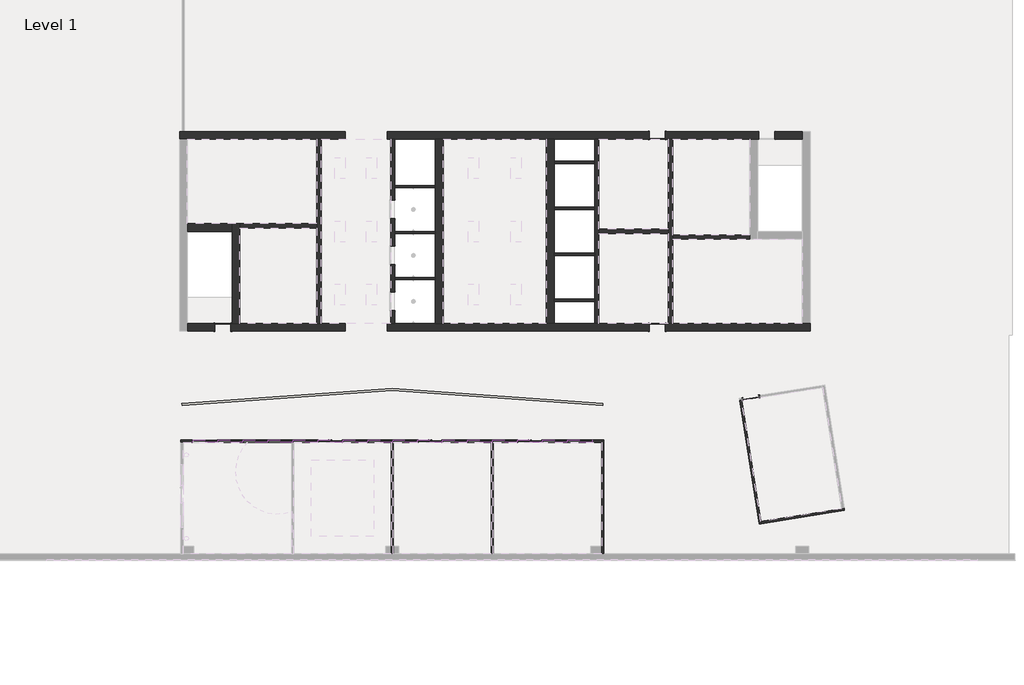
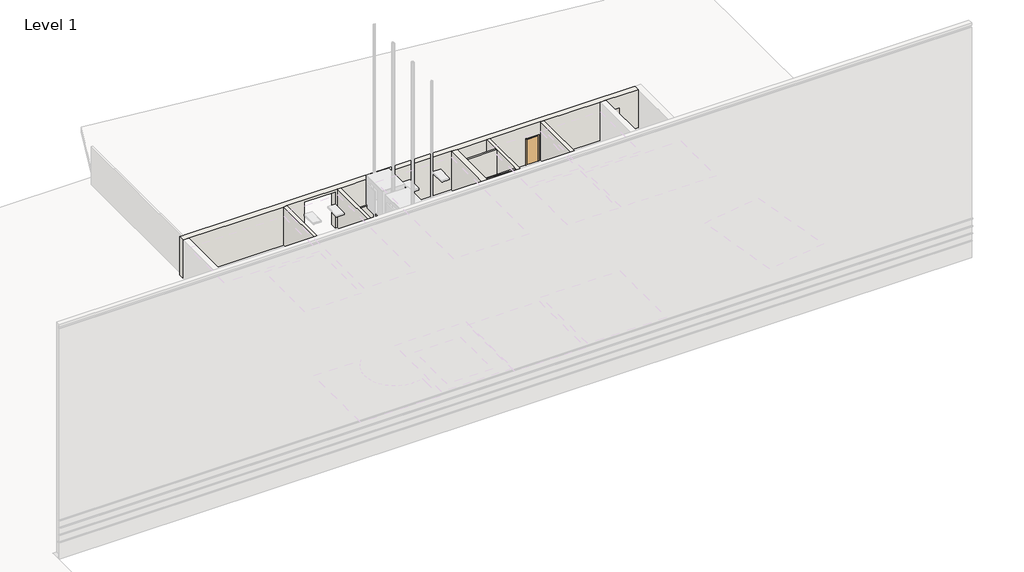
# One storey, part 7 of 23: 44 members, 27 walls, 13 plates, 7 doors.
"""IFC4 building model written with IfcOpenShell, lengths in millimetres."""

from ifc_helpers import new_model, si_unit, point, frame, frame_2d, origin, origin_with_axes, place, context, project, spatial, polyline, circle_curve, trimmed, segment, composite_curve, outline, extrude, faceted_brep, transform, mapped, element, save
from components import curtain_wall_dbl_glass_curtain_wall_dbl_glass_523d1701, door_a1797ceb, door_3c99239a, door_aec9db07, member_5adcf121, member_e7ed5742, member_19b6149e, member_c3403f11, system_panel_glazed_9bc9b24f, system_panel_glazed_76e4750d

model = new_model("IFC4")

# Units and contexts
model_context = context("Model", 3, world=origin())
ifc_project = project(units=[si_unit("LENGTHUNIT", "METRE", prefix="MILLI")], contexts=[model_context])

# Site, building, storey
site = spatial("IfcSite", under=ifc_project)
building = spatial("IfcBuilding", under=site)
storey = spatial("IfcBuildingStorey", under=building, Name="Level 1", Elevation=0.0)

# Doors
placement = place(None, origin())
curtain_wall_dbl_glass_curtain_wall_dbl_glass_shape = curtain_wall_dbl_glass_curtain_wall_dbl_glass_523d1701(model_context)
element("IfcDoor", 1, ObjectType="Curtain Wall Dbl Glass : Curtain Wall Dbl Glass", at=placement, inside=storey, context=model_context, shape_type="MappedRepresentation", body=[
    mapped(curtain_wall_dbl_glass_curtain_wall_dbl_glass_shape, transform((-24482.1740426, -21198.8103492, -25.4), x_axis=(-1.0, 0.0, 0.0), y_axis=(0.0, -1.0, 0.0), z_axis=(0.0, 0.0, 1.0))),
])
element("IfcDoor", 2, ObjectType="Curtain Wall Dbl Glass : Curtain Wall Dbl Glass", at=placement, inside=storey, context=model_context, shape_type="MappedRepresentation", body=[
    mapped(curtain_wall_dbl_glass_curtain_wall_dbl_glass_shape, transform((-18697.3240426, -21198.8103492, -25.4), x_axis=(-1.0, 0.0, 0.0), y_axis=(0.0, -1.0, 0.0), z_axis=(0.0, 0.0, 1.0))),
])
element("IfcDoor", 3, ObjectType="Curtain Wall Dbl Glass : Curtain Wall Dbl Glass", at=placement, inside=storey, context=model_context, shape_type="MappedRepresentation", body=[
    mapped(curtain_wall_dbl_glass_curtain_wall_dbl_glass_shape, transform((-12912.4740426, -21198.8103492, -25.4), x_axis=(-1.0, 0.0, 0.0), y_axis=(0.0, -1.0, 0.0), z_axis=(0.0, 0.0, 1.0))),
])
door_shape = door_a1797ceb(model_context)
element("IfcDoor", 4, ObjectType="Single-Flush : 36\" x 84\"", at=placement, inside=storey, context=model_context, shape_type="MappedRepresentation", body=[
    mapped(door_shape, transform((-99.7033757, -18682.6442583, 0.0), x_axis=(-0.9876883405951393, -0.15643446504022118, 0.0), y_axis=(0.15643446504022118, -0.9876883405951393, 0.0), z_axis=(0.0, 0.0, 1.0))),
])
door_2_shape = door_3c99239a(model_context)
element("IfcDoor", 5, ObjectType="Single-Flush : 36\" x 84\"", at=placement, inside=storey, context=model_context, shape_type="MappedRepresentation", body=[
    mapped(door_2_shape, transform((-30700.0713641, -14594.8103492, 0.0), x_axis=(1.0, 0.0, 0.0), y_axis=(0.0, 1.0, 0.0), z_axis=(0.0, 0.0, 1.0))),
])
element("IfcDoor", 6, ObjectType="Single-Flush : 36\" x 84\"", at=placement, inside=storey, context=model_context, shape_type="MappedRepresentation", body=[
    mapped(door_2_shape, transform((-5525.0427926, -14594.8103492, 0.0), x_axis=(1.0, 0.0, 0.0), y_axis=(0.0, 1.0, 0.0), z_axis=(0.0, 0.0, 1.0))),
])
door_3_shape = door_aec9db07(model_context)
element("IfcDoor", 7, ObjectType="Single-Flush : 36\" x 84\"", at=placement, inside=storey, context=model_context, shape_type="MappedRepresentation", body=[
    mapped(door_3_shape, transform((-5525.0427926, -3469.6103492, 0.0), x_axis=(1.0, 0.0, 0.0), y_axis=(0.0, 1.0, 0.0), z_axis=(0.0, 0.0, 1.0))),
])

# Members
member_shape = member_5adcf121(model_context)
element("IfcMember", 8, ObjectType="Rectangular Mullion : 2.5\" x 5\" rectangular", at=placement, inside=storey, context=model_context, shape_type="MappedRepresentation", body=[
    mapped(member_shape, transform((-30990.1302926, -21198.8103492, 38.1), x_axis=(1.0, 0.0, 0.0), y_axis=(0.0, -1.0, 0.0), z_axis=(0.0, 0.0, -1.0))),
])
element("IfcMember", 9, ObjectType="Rectangular Mullion : 2.5\" x 5\" rectangular", at=placement, inside=storey, context=model_context, shape_type="MappedRepresentation", body=[
    mapped(member_shape, transform((-29543.9177926, -21198.8103492, 38.1), x_axis=(1.0, 0.0, 0.0), y_axis=(0.0, -1.0, 0.0), z_axis=(0.0, 0.0, -1.0))),
])
element("IfcMember", 10, ObjectType="Rectangular Mullion : 2.5\" x 5\" rectangular", at=placement, inside=storey, context=model_context, shape_type="MappedRepresentation", body=[
    mapped(member_shape, transform((-28097.7052926, -21198.8103492, 38.1), x_axis=(1.0, 0.0, 0.0), y_axis=(0.0, -1.0, 0.0), z_axis=(0.0, 0.0, -1.0))),
])
element("IfcMember", 11, ObjectType="Rectangular Mullion : 2.5\" x 5\" rectangular", at=placement, inside=storey, context=model_context, shape_type="MappedRepresentation", body=[
    mapped(member_shape, transform((-26651.4927926, -21198.8103492, 38.1), x_axis=(1.0, 0.0, 0.0), y_axis=(0.0, -1.0, 0.0), z_axis=(0.0, 0.0, -1.0))),
])
element("IfcMember", 12, ObjectType="Rectangular Mullion : 2.5\" x 5\" rectangular", at=placement, inside=storey, context=model_context, shape_type="MappedRepresentation", body=[
    mapped(member_shape, transform((-25205.2802926, -21198.8103492, 38.1), x_axis=(1.0, 0.0, 0.0), y_axis=(0.0, -1.0, 0.0), z_axis=(0.0, 0.0, -1.0))),
])
element("IfcMember", 13, ObjectType="Rectangular Mullion : 2.5\" x 5\" rectangular", at=placement, inside=storey, context=model_context, shape_type="MappedRepresentation", body=[
    mapped(member_shape, transform((-23759.0677926, -21198.8103492, 38.1), x_axis=(1.0, 0.0, 0.0), y_axis=(0.0, -1.0, 0.0), z_axis=(0.0, 0.0, -1.0))),
])
element("IfcMember", 14, ObjectType="Rectangular Mullion : 2.5\" x 5\" rectangular", at=placement, inside=storey, context=model_context, shape_type="MappedRepresentation", body=[
    mapped(member_shape, transform((-22312.8552926, -21198.8103492, 38.1), x_axis=(1.0, 0.0, 0.0), y_axis=(0.0, -1.0, 0.0), z_axis=(0.0, 0.0, -1.0))),
])
element("IfcMember", 15, ObjectType="Rectangular Mullion : 2.5\" x 5\" rectangular", at=placement, inside=storey, context=model_context, shape_type="MappedRepresentation", body=[
    mapped(member_shape, transform((-20866.6427926, -21198.8103492, 38.1), x_axis=(1.0, 0.0, 0.0), y_axis=(0.0, -1.0, 0.0), z_axis=(0.0, 0.0, -1.0))),
])
element("IfcMember", 16, ObjectType="Rectangular Mullion : 2.5\" x 5\" rectangular", at=placement, inside=storey, context=model_context, shape_type="MappedRepresentation", body=[
    mapped(member_shape, transform((-19420.4302926, -21198.8103492, 38.1), x_axis=(1.0, 0.0, 0.0), y_axis=(0.0, -1.0, 0.0), z_axis=(0.0, 0.0, -1.0))),
])
element("IfcMember", 17, ObjectType="Rectangular Mullion : 2.5\" x 5\" rectangular", at=placement, inside=storey, context=model_context, shape_type="MappedRepresentation", body=[
    mapped(member_shape, transform((-17974.2177926, -21198.8103492, 38.1), x_axis=(1.0, 0.0, 0.0), y_axis=(0.0, -1.0, 0.0), z_axis=(0.0, 0.0, -1.0))),
])
element("IfcMember", 18, ObjectType="Rectangular Mullion : 2.5\" x 5\" rectangular", at=placement, inside=storey, context=model_context, shape_type="MappedRepresentation", body=[
    mapped(member_shape, transform((-16528.0052926, -21198.8103492, 38.1), x_axis=(1.0, 0.0, 0.0), y_axis=(0.0, -1.0, 0.0), z_axis=(0.0, 0.0, -1.0))),
])
element("IfcMember", 19, ObjectType="Rectangular Mullion : 2.5\" x 5\" rectangular", at=placement, inside=storey, context=model_context, shape_type="MappedRepresentation", body=[
    mapped(member_shape, transform((-15081.7927926, -21198.8103492, 38.1), x_axis=(1.0, 0.0, 0.0), y_axis=(0.0, -1.0, 0.0), z_axis=(0.0, 0.0, -1.0))),
])
element("IfcMember", 20, ObjectType="Rectangular Mullion : 2.5\" x 5\" rectangular", at=placement, inside=storey, context=model_context, shape_type="MappedRepresentation", body=[
    mapped(member_shape, transform((-13635.5802926, -21198.8103492, 38.1), x_axis=(1.0, 0.0, 0.0), y_axis=(0.0, -1.0, 0.0), z_axis=(0.0, 0.0, -1.0))),
])
element("IfcMember", 21, ObjectType="Rectangular Mullion : 2.5\" x 5\" rectangular", at=placement, inside=storey, context=model_context, shape_type="MappedRepresentation", body=[
    mapped(member_shape, transform((-12189.3677926, -21198.8103492, 38.1), x_axis=(1.0, 0.0, 0.0), y_axis=(0.0, -1.0, 0.0), z_axis=(0.0, 0.0, -1.0))),
])
element("IfcMember", 22, ObjectType="Rectangular Mullion : 2.5\" x 5\" rectangular", at=placement, inside=storey, context=model_context, shape_type="MappedRepresentation", body=[
    mapped(member_shape, transform((-10743.1552926, -21198.8103492, 38.1), x_axis=(1.0, 0.0, 0.0), y_axis=(0.0, -1.0, 0.0), z_axis=(0.0, 0.0, -1.0))),
])
member_2_shape = member_e7ed5742(model_context)
element("IfcMember", 23, ObjectType="Rectangular Mullion : 2.5\" x 5\" rectangular", at=placement, inside=storey, context=model_context, shape_type="MappedRepresentation", body=[
    mapped(member_2_shape, transform((-9296.9427926, -21198.8103492, 38.1), x_axis=(1.0, 0.0, 0.0), y_axis=(0.0, -1.0, 0.0), z_axis=(0.0, 0.0, -1.0))),
])
member_3_shape = member_19b6149e(model_context)
element("IfcMember", 24, ObjectType="Rectangular Mullion : 2.5\" x 5\" rectangular", at=placement, inside=storey, context=model_context, shape_type="MappedRepresentation", body=[
    mapped(member_3_shape, transform((-9296.9427926, -21198.8103492, 2413.0), x_axis=(0.0, 0.0, 1.0), y_axis=(0.0, -1.0, 0.0), z_axis=(1.0, 0.0, 0.0))),
])
element("IfcMember", 25, ObjectType="Rectangular Mullion : 2.5\" x 5\" rectangular", at=placement, inside=storey, context=model_context, shape_type="MappedRepresentation", body=[
    mapped(member_3_shape, transform((-30990.1302926, -21198.8103492, 2413.0), x_axis=(0.0, 0.0, 1.0), y_axis=(0.0, -1.0, 0.0), z_axis=(1.0, 0.0, 0.0))),
])
element("IfcMember", 26, ObjectType="Rectangular Mullion : 2.5\" x 5\" rectangular", at=placement, inside=storey, context=model_context, shape_type="MappedRepresentation", body=[
    mapped(member_3_shape, transform((-29543.9177926, -21198.8103492, 2413.0), x_axis=(0.0, 0.0, 1.0), y_axis=(0.0, -1.0, 0.0), z_axis=(1.0, 0.0, 0.0))),
])
element("IfcMember", 27, ObjectType="Rectangular Mullion : 2.5\" x 5\" rectangular", at=placement, inside=storey, context=model_context, shape_type="MappedRepresentation", body=[
    mapped(member_3_shape, transform((-28097.7052926, -21198.8103492, 2413.0), x_axis=(0.0, 0.0, 1.0), y_axis=(0.0, -1.0, 0.0), z_axis=(1.0, 0.0, 0.0))),
])
element("IfcMember", 28, ObjectType="Rectangular Mullion : 2.5\" x 5\" rectangular", at=placement, inside=storey, context=model_context, shape_type="MappedRepresentation", body=[
    mapped(member_3_shape, transform((-26651.4927926, -21198.8103492, 2413.0), x_axis=(0.0, 0.0, 1.0), y_axis=(0.0, -1.0, 0.0), z_axis=(1.0, 0.0, 0.0))),
])
element("IfcMember", 29, ObjectType="Rectangular Mullion : 2.5\" x 5\" rectangular", at=placement, inside=storey, context=model_context, shape_type="MappedRepresentation", body=[
    mapped(member_3_shape, transform((-25205.2802926, -21198.8103492, 2413.0), x_axis=(0.0, 0.0, 1.0), y_axis=(0.0, -1.0, 0.0), z_axis=(1.0, 0.0, 0.0))),
])
element("IfcMember", 30, ObjectType="Rectangular Mullion : 2.5\" x 5\" rectangular", at=placement, inside=storey, context=model_context, shape_type="MappedRepresentation", body=[
    mapped(member_3_shape, transform((-23759.0677926, -21198.8103492, 2413.0), x_axis=(0.0, 0.0, 1.0), y_axis=(0.0, -1.0, 0.0), z_axis=(1.0, 0.0, 0.0))),
])
element("IfcMember", 31, ObjectType="Rectangular Mullion : 2.5\" x 5\" rectangular", at=placement, inside=storey, context=model_context, shape_type="MappedRepresentation", body=[
    mapped(member_3_shape, transform((-22312.8552926, -21198.8103492, 2413.0), x_axis=(0.0, 0.0, 1.0), y_axis=(0.0, -1.0, 0.0), z_axis=(1.0, 0.0, 0.0))),
])
element("IfcMember", 32, ObjectType="Rectangular Mullion : 2.5\" x 5\" rectangular", at=placement, inside=storey, context=model_context, shape_type="MappedRepresentation", body=[
    mapped(member_3_shape, transform((-20866.6427926, -21198.8103492, 2413.0), x_axis=(0.0, 0.0, 1.0), y_axis=(0.0, -1.0, 0.0), z_axis=(1.0, 0.0, 0.0))),
])
element("IfcMember", 33, ObjectType="Rectangular Mullion : 2.5\" x 5\" rectangular", at=placement, inside=storey, context=model_context, shape_type="MappedRepresentation", body=[
    mapped(member_3_shape, transform((-19420.4302926, -21198.8103492, 2413.0), x_axis=(0.0, 0.0, 1.0), y_axis=(0.0, -1.0, 0.0), z_axis=(1.0, 0.0, 0.0))),
])
element("IfcMember", 34, ObjectType="Rectangular Mullion : 2.5\" x 5\" rectangular", at=placement, inside=storey, context=model_context, shape_type="MappedRepresentation", body=[
    mapped(member_3_shape, transform((-17974.2177926, -21198.8103492, 2413.0), x_axis=(0.0, 0.0, 1.0), y_axis=(0.0, -1.0, 0.0), z_axis=(1.0, 0.0, 0.0))),
])
element("IfcMember", 35, ObjectType="Rectangular Mullion : 2.5\" x 5\" rectangular", at=placement, inside=storey, context=model_context, shape_type="MappedRepresentation", body=[
    mapped(member_3_shape, transform((-16528.0052926, -21198.8103492, 2413.0), x_axis=(0.0, 0.0, 1.0), y_axis=(0.0, -1.0, 0.0), z_axis=(1.0, 0.0, 0.0))),
])
element("IfcMember", 36, ObjectType="Rectangular Mullion : 2.5\" x 5\" rectangular", at=placement, inside=storey, context=model_context, shape_type="MappedRepresentation", body=[
    mapped(member_3_shape, transform((-15081.7927926, -21198.8103492, 2413.0), x_axis=(0.0, 0.0, 1.0), y_axis=(0.0, -1.0, 0.0), z_axis=(1.0, 0.0, 0.0))),
])
element("IfcMember", 37, ObjectType="Rectangular Mullion : 2.5\" x 5\" rectangular", at=placement, inside=storey, context=model_context, shape_type="MappedRepresentation", body=[
    mapped(member_3_shape, transform((-13635.5802926, -21198.8103492, 2413.0), x_axis=(0.0, 0.0, 1.0), y_axis=(0.0, -1.0, 0.0), z_axis=(1.0, 0.0, 0.0))),
])
element("IfcMember", 38, ObjectType="Rectangular Mullion : 2.5\" x 5\" rectangular", at=placement, inside=storey, context=model_context, shape_type="MappedRepresentation", body=[
    mapped(member_3_shape, transform((-12189.3677926, -21198.8103492, 2413.0), x_axis=(0.0, 0.0, 1.0), y_axis=(0.0, -1.0, 0.0), z_axis=(1.0, 0.0, 0.0))),
])
element("IfcMember", 39, ObjectType="Rectangular Mullion : 2.5\" x 5\" rectangular", at=placement, inside=storey, context=model_context, shape_type="MappedRepresentation", body=[
    mapped(member_3_shape, transform((-10743.1552926, -21198.8103492, 2413.0), x_axis=(0.0, 0.0, 1.0), y_axis=(0.0, -1.0, 0.0), z_axis=(1.0, 0.0, 0.0))),
])
element("IfcMember", 40, ObjectType="Rectangular Mullion : 2.5\" x 5\" rectangular", at=placement, inside=storey, context=model_context, shape_type="MappedRepresentation", body=[
    mapped(member_3_shape, transform((-30990.1302926, -21198.8103492, -25.4), x_axis=(0.0, 0.0, -1.0), y_axis=(0.0, -1.0, 0.0), z_axis=(-1.0, 0.0, 0.0))),
])
element("IfcMember", 41, ObjectType="Rectangular Mullion : 2.5\" x 5\" rectangular", at=placement, inside=storey, context=model_context, shape_type="MappedRepresentation", body=[
    mapped(member_3_shape, transform((-29543.9177926, -21198.8103492, -25.4), x_axis=(0.0, 0.0, -1.0), y_axis=(0.0, -1.0, 0.0), z_axis=(-1.0, 0.0, 0.0))),
])
element("IfcMember", 42, ObjectType="Rectangular Mullion : 2.5\" x 5\" rectangular", at=placement, inside=storey, context=model_context, shape_type="MappedRepresentation", body=[
    mapped(member_3_shape, transform((-28097.7052926, -21198.8103492, -25.4), x_axis=(0.0, 0.0, -1.0), y_axis=(0.0, -1.0, 0.0), z_axis=(-1.0, 0.0, 0.0))),
])
element("IfcMember", 43, ObjectType="Rectangular Mullion : 2.5\" x 5\" rectangular", at=placement, inside=storey, context=model_context, shape_type="MappedRepresentation", body=[
    mapped(member_3_shape, transform((-22312.8552926, -21198.8103492, -25.4), x_axis=(0.0, 0.0, -1.0), y_axis=(0.0, -1.0, 0.0), z_axis=(-1.0, 0.0, 0.0))),
])
element("IfcMember", 44, ObjectType="Rectangular Mullion : 2.5\" x 5\" rectangular", at=placement, inside=storey, context=model_context, shape_type="MappedRepresentation", body=[
    mapped(member_3_shape, transform((-16528.0052926, -21198.8103492, -25.4), x_axis=(0.0, 0.0, -1.0), y_axis=(0.0, -1.0, 0.0), z_axis=(-1.0, 0.0, 0.0))),
])
element("IfcMember", 45, ObjectType="Rectangular Mullion : 2.5\" x 5\" rectangular", at=placement, inside=storey, context=model_context, shape_type="MappedRepresentation", body=[
    mapped(member_3_shape, transform((-10743.1552926, -21198.8103492, -25.4), x_axis=(0.0, 0.0, -1.0), y_axis=(0.0, -1.0, 0.0), z_axis=(-1.0, 0.0, 0.0))),
])
member_4_shape = member_c3403f11(model_context)
element("IfcMember", 46, ObjectType="Rectangular Mullion : 2.5\" x 5\" rectangular", at=placement, inside=storey, context=model_context, shape_type="MappedRepresentation", body=[
    mapped(member_4_shape, transform((-26651.4927926, -21198.8103492, -25.4), x_axis=(0.0, 0.0, -1.0), y_axis=(0.0, -1.0, 0.0), z_axis=(-1.0, 0.0, 0.0))),
])
element("IfcMember", 47, ObjectType="Rectangular Mullion : 2.5\" x 5\" rectangular", at=placement, inside=storey, context=model_context, shape_type="MappedRepresentation", body=[
    mapped(member_4_shape, transform((-20866.6427926, -21198.8103492, -25.4), x_axis=(0.0, 0.0, -1.0), y_axis=(0.0, -1.0, 0.0), z_axis=(-1.0, 0.0, 0.0))),
])
element("IfcMember", 48, ObjectType="Rectangular Mullion : 2.5\" x 5\" rectangular", at=placement, inside=storey, context=model_context, shape_type="MappedRepresentation", body=[
    mapped(member_4_shape, transform((-15081.7927926, -21198.8103492, -25.4), x_axis=(0.0, 0.0, -1.0), y_axis=(0.0, -1.0, 0.0), z_axis=(-1.0, 0.0, 0.0))),
])
element("IfcMember", 49, ObjectType="Rectangular Mullion : 2.5\" x 5\" rectangular", at=placement, inside=storey, context=model_context, shape_type="MappedRepresentation", body=[
    mapped(member_4_shape, transform((-23790.8177926, -21198.8103492, -25.4), x_axis=(0.0, 0.0, -1.0), y_axis=(0.0, -1.0, 0.0), z_axis=(-1.0, 0.0, 0.0))),
])
element("IfcMember", 50, ObjectType="Rectangular Mullion : 2.5\" x 5\" rectangular", at=placement, inside=storey, context=model_context, shape_type="MappedRepresentation", body=[
    mapped(member_4_shape, transform((-18005.9677926, -21198.8103492, -25.4), x_axis=(0.0, 0.0, -1.0), y_axis=(0.0, -1.0, 0.0), z_axis=(-1.0, 0.0, 0.0))),
])
element("IfcMember", 51, ObjectType="Rectangular Mullion : 2.5\" x 5\" rectangular", at=placement, inside=storey, context=model_context, shape_type="MappedRepresentation", body=[
    mapped(member_4_shape, transform((-12221.1177926, -21198.8103492, -25.4), x_axis=(0.0, 0.0, -1.0), y_axis=(0.0, -1.0, 0.0), z_axis=(-1.0, 0.0, 0.0))),
])

# Plates
system_panel_glazed_shape = system_panel_glazed_9bc9b24f(model_context)
element("IfcPlate", 52, ObjectType="System Panel : Glazed", at=placement, inside=storey, context=model_context, shape_type="MappedRepresentation", body=[
    mapped(system_panel_glazed_shape, transform((-31697.3615426, -21198.8103492, 38.1), x_axis=(1.0, 0.0, 0.0), y_axis=(0.0, 1.0, 0.0), z_axis=(0.0, 0.0, 1.0))),
])
element("IfcPlate", 53, ObjectType="System Panel : Glazed", at=placement, inside=storey, context=model_context, shape_type="MappedRepresentation", body=[
    mapped(system_panel_glazed_shape, transform((-10035.9240426, -21198.8103492, 38.1), x_axis=(1.0, 0.0, 0.0), y_axis=(0.0, 1.0, 0.0), z_axis=(0.0, 0.0, 1.0))),
])
system_panel_glazed_2_shape = system_panel_glazed_76e4750d(model_context)
element("IfcPlate", 54, ObjectType="System Panel : Glazed", at=placement, inside=storey, context=model_context, shape_type="MappedRepresentation", body=[
    mapped(system_panel_glazed_2_shape, transform((-30267.0240426, -21198.8103492, 38.1), x_axis=(1.0, 0.0, 0.0), y_axis=(0.0, 1.0, 0.0), z_axis=(0.0, 0.0, 1.0))),
])
element("IfcPlate", 55, ObjectType="System Panel : Glazed", at=placement, inside=storey, context=model_context, shape_type="MappedRepresentation", body=[
    mapped(system_panel_glazed_2_shape, transform((-28820.8115426, -21198.8103492, 38.1), x_axis=(1.0, 0.0, 0.0), y_axis=(0.0, 1.0, 0.0), z_axis=(0.0, 0.0, 1.0))),
])
element("IfcPlate", 56, ObjectType="System Panel : Glazed", at=placement, inside=storey, context=model_context, shape_type="MappedRepresentation", body=[
    mapped(system_panel_glazed_2_shape, transform((-27374.5990426, -21198.8103492, 38.1), x_axis=(1.0, 0.0, 0.0), y_axis=(0.0, 1.0, 0.0), z_axis=(0.0, 0.0, 1.0))),
])
element("IfcPlate", 57, ObjectType="System Panel : Glazed", at=placement, inside=storey, context=model_context, shape_type="MappedRepresentation", body=[
    mapped(system_panel_glazed_2_shape, transform((-25928.3865426, -21198.8103492, 38.1), x_axis=(1.0, 0.0, 0.0), y_axis=(0.0, 1.0, 0.0), z_axis=(0.0, 0.0, 1.0))),
])
element("IfcPlate", 58, ObjectType="System Panel : Glazed", at=placement, inside=storey, context=model_context, shape_type="MappedRepresentation", body=[
    mapped(system_panel_glazed_2_shape, transform((-23035.9615426, -21198.8103492, 38.1), x_axis=(1.0, 0.0, 0.0), y_axis=(0.0, 1.0, 0.0), z_axis=(0.0, 0.0, 1.0))),
])
element("IfcPlate", 59, ObjectType="System Panel : Glazed", at=placement, inside=storey, context=model_context, shape_type="MappedRepresentation", body=[
    mapped(system_panel_glazed_2_shape, transform((-21589.7490426, -21198.8103492, 38.1), x_axis=(1.0, 0.0, 0.0), y_axis=(0.0, 1.0, 0.0), z_axis=(0.0, 0.0, 1.0))),
])
element("IfcPlate", 60, ObjectType="System Panel : Glazed", at=placement, inside=storey, context=model_context, shape_type="MappedRepresentation", body=[
    mapped(system_panel_glazed_2_shape, transform((-20143.5365426, -21198.8103492, 38.1), x_axis=(1.0, 0.0, 0.0), y_axis=(0.0, 1.0, 0.0), z_axis=(0.0, 0.0, 1.0))),
])
element("IfcPlate", 61, ObjectType="System Panel : Glazed", at=placement, inside=storey, context=model_context, shape_type="MappedRepresentation", body=[
    mapped(system_panel_glazed_2_shape, transform((-17251.1115426, -21198.8103492, 38.1), x_axis=(1.0, 0.0, 0.0), y_axis=(0.0, 1.0, 0.0), z_axis=(0.0, 0.0, 1.0))),
])
element("IfcPlate", 62, ObjectType="System Panel : Glazed", at=placement, inside=storey, context=model_context, shape_type="MappedRepresentation", body=[
    mapped(system_panel_glazed_2_shape, transform((-15804.8990426, -21198.8103492, 38.1), x_axis=(1.0, 0.0, 0.0), y_axis=(0.0, 1.0, 0.0), z_axis=(0.0, 0.0, 1.0))),
])
element("IfcPlate", 63, ObjectType="System Panel : Glazed", at=placement, inside=storey, context=model_context, shape_type="MappedRepresentation", body=[
    mapped(system_panel_glazed_2_shape, transform((-14358.6865426, -21198.8103492, 38.1), x_axis=(1.0, 0.0, 0.0), y_axis=(0.0, 1.0, 0.0), z_axis=(0.0, 0.0, 1.0))),
])
element("IfcPlate", 64, ObjectType="System Panel : Glazed", at=placement, inside=storey, context=model_context, shape_type="MappedRepresentation", body=[
    mapped(system_panel_glazed_2_shape, transform((-11466.2615426, -21198.8103492, 38.1), x_axis=(1.0, 0.0, 0.0), y_axis=(0.0, 1.0, 0.0), z_axis=(0.0, 0.0, 1.0))),
])

# Walls
element("IfcWall", 65, ObjectType="Core-shaft 10\" Concrete", at=placement, inside=storey, context=model_context, shape_type="SweptSolid", body=[
    extrude(outline(polyline([(-3698.2103492, 0.0), (-7222.4603492, 0.0), (-7222.4603492, 2159.0), (-8301.9603492, 2159.0), (-8301.9603492, 0.0), (-9889.4603492, 0.0), (-9889.4603492, 2159.0), (-10968.9603492, 2159.0), (-10968.9603492, 0.0), (-12556.4603492, 0.0), (-12556.4603492, 2159.0), (-13635.9603492, 2159.0), (-13635.9603492, 0.0), (-14366.2103492, 0.0), (-14366.2103492, 3222.625), (-3698.2103492, 3222.625), (-3698.2103492, 0.0)])), frame((-20979.1285069, 0.0, 0.0), z_axis=(1.0, 0.0, 0.0), x_axis=(0.0, 1.0, 0.0)), (0.0, 0.0, 1.0), 254.0),
])
element("IfcWall", 66, ObjectType="Core-shaft 10\" Concrete", at=placement, inside=storey, context=model_context, shape_type="Brep", body=[
    faceted_brep([(-24992.3285069, -14366.2103492, 0.0), (-24992.3285069, -3698.2103492, 0.0), (-24992.3285069, -3698.2103492, 3222.625), (-24992.3285069, -14366.2103492, 3222.625), (-25246.3285069, -14366.2103492, 0.0), (-25246.3285069, -14366.2103492, 3222.625), (-25246.3285069, -8829.0103492, 3222.625), (-25246.3285069, -8575.0103492, 3222.625), (-25246.3285069, -3698.2103492, 3222.625), (-25246.3285069, -3698.2103492, 0.0), (-25246.3285069, -8575.0103492, 0.0), (-25246.3285069, -8829.0103492, 0.0)], [[[0, 1, 2, 3]], [[4, 5, 6, 7, 8, 9, 10, 11]], [[1, 0, 4, 11, 10, 9]], [[2, 1, 9, 8]], [[0, 3, 5, 4]], [[3, 2, 8, 7, 6, 5]]]),
])
element("IfcWall", 67, ObjectType="Core-shaft 10\" Concrete", at=placement, inside=storey, context=model_context, shape_type="SweptSolid", body=[
    extrude(outline(polyline([(-25246.3285069, -8829.0103492), (-29709.4713641, -8829.0103492), (-29709.4713641, -8575.0103492), (-25246.3285069, -8575.0103492), (-25246.3285069, -8829.0103492)])), origin_with_axes(), (0.0, 0.0, 1.0), 3222.625),
])
element("IfcWall", 68, ObjectType="Core-shaft 10\" Concrete", at=placement, inside=storey, context=model_context, shape_type="SweptSolid", body=[
    extrude(outline(polyline([(-8903.2427926, -3698.2103492), (-8903.2427926, -14366.2103492), (-9157.2427926, -14366.2103492), (-9157.2427926, -3698.2103492), (-8903.2427926, -3698.2103492)])), origin_with_axes(), (0.0, 0.0, 1.0), 3222.625),
])
element("IfcWall", 69, ObjectType="Core-shaft 10\" Concrete", at=placement, inside=storey, context=model_context, shape_type="Brep", body=[
    faceted_brep([(-4636.0427926, -14366.2103492, 0.0), (-4636.0427926, -9489.4103492, 0.0), (-4636.0427926, -9235.4103492, 0.0), (-4636.0427926, -3698.2103492, 0.0), (-4636.0427926, -3698.2103492, 3222.625), (-4636.0427926, -9235.4103492, 3222.625), (-4636.0427926, -9489.4103492, 3222.625), (-4636.0427926, -14366.2103492, 3222.625), (-4890.0427926, -14366.2103492, 0.0), (-4890.0427926, -14366.2103492, 3222.625), (-4890.0427926, -3698.2103492, 3222.625), (-4890.0427926, -3698.2103492, 0.0)], [[[0, 1, 2, 3, 4, 5, 6, 7]], [[8, 9, 10, 11]], [[3, 2, 1, 0, 8, 11]], [[4, 3, 11, 10]], [[0, 7, 9, 8]], [[7, 6, 5, 4, 10, 9]]]),
])
element("IfcWall", 70, ObjectType="Core-shaft 10\" Concrete", at=placement, inside=storey, context=model_context, shape_type="SweptSolid", body=[
    extrude(outline(polyline([(-4636.0427926, -9235.4103492), (-172.8999355, -9235.4103492), (-172.8999355, -9489.4103492), (-4636.0427926, -9489.4103492), (-4636.0427926, -9235.4103492)])), origin_with_axes(), (0.0, 0.0, 1.0), 3222.625),
])
element("IfcWall", 71, ObjectType="Core-shaft 10\" Concrete", at=placement, inside=storey, context=model_context, shape_type="SweptSolid", body=[
    extrude(outline(polyline([(-8903.2427926, -8905.2103492), (-4890.0427926, -8905.2103492), (-4890.0427926, -9159.2103492), (-8903.2427926, -9159.2103492), (-8903.2427926, -8905.2103492)])), origin_with_axes(), (0.0, 0.0, 1.0), 3222.625),
])
element("IfcWall", 72, ObjectType="Core-shaft 18\" Concrete", at=placement, inside=storey, context=model_context, shape_type="Brep", body=[
    faceted_brep([(3325.0429217, -14366.2103492, 0.0), (2867.8429217, -14366.2103492, 0.0), (-4636.0427926, -14366.2103492, 0.0), (-4890.0427926, -14366.2103492, 0.0), (-5067.8427926, -14366.2103492, 0.0), (-5067.8427926, -14366.2103492, 2133.6), (-5982.2427926, -14366.2103492, 2133.6), (-5982.2427926, -14366.2103492, 0.0), (-8903.2427926, -14366.2103492, 0.0), (-9157.2427926, -14366.2103492, 0.0), (-11497.2428559, -14366.2103492, 0.0), (-11954.4428559, -14366.2103492, 0.0), (-17927.9284437, -14366.2103492, 0.0), (-18385.1284437, -14366.2103492, 0.0), (-20725.1285069, -14366.2103492, 0.0), (-20979.1285069, -14366.2103492, 0.0), (-21167.8142212, -14366.2103492, 0.0), (-21167.8142212, -14366.2103492, 3048.0), (-23606.2142212, -14366.2103492, 3048.0), (-23606.2142212, -14366.2103492, 0.0), (-24992.3285069, -14366.2103492, 0.0), (-25246.3285069, -14366.2103492, 0.0), (-29709.4713641, -14366.2103492, 0.0), (-30166.6713641, -14366.2103492, 0.0), (-30242.8713641, -14366.2103492, 0.0), (-30242.8713641, -14366.2103492, 2133.6), (-31157.2713641, -14366.2103492, 2133.6), (-31157.2713641, -14366.2103492, 0.0), (-32750.2142212, -14366.2103492, 0.0), (-32750.2142212, -14366.2103492, 3222.625), (-30166.6713641, -14366.2103492, 3222.625), (-29709.4713641, -14366.2103492, 3222.625), (-25246.3285069, -14366.2103492, 3222.625), (-24992.3285069, -14366.2103492, 3222.625), (-20979.1285069, -14366.2103492, 3222.625), (-20725.1285069, -14366.2103492, 3222.625), (-18385.1284437, -14366.2103492, 3222.625), (-17927.9284437, -14366.2103492, 3222.625), (-11954.4428559, -14366.2103492, 3222.625), (-11497.2428559, -14366.2103492, 3222.625), (-9157.2427926, -14366.2103492, 3222.625), (-8903.2427926, -14366.2103492, 3222.625), (-4890.0427926, -14366.2103492, 3222.625), (-4636.0427926, -14366.2103492, 3222.625), (2867.8429217, -14366.2103492, 3222.625), (3325.0429217, -14366.2103492, 3222.625), (-5067.8427926, -14823.4103492, 2133.6), (-5067.8427926, -14823.4103492, 0.0), (3325.0429217, -14823.4103492, 0.0), (3325.0429217, -14823.4103492, 3222.625), (-32750.2142212, -14823.4103492, 3222.625), (-32750.2142212, -14823.4103492, 0.0), (-31157.2713641, -14823.4103492, 0.0), (-31157.2713641, -14823.4103492, 2133.6), (-30242.8713641, -14823.4103492, 2133.6), (-30242.8713641, -14823.4103492, 0.0), (-23606.2142212, -14823.4103492, 0.0), (-23606.2142212, -14823.4103492, 3048.0), (-21167.8142212, -14823.4103492, 3048.0), (-21167.8142212, -14823.4103492, 0.0), (-5982.2427926, -14823.4103492, 0.0), (-5982.2427926, -14823.4103492, 2133.6)], [[[0, 1, 2, 3, 4, 5, 6, 7, 8, 9, 10, 11, 12, 13, 14, 15, 16, 17, 18, 19, 20, 21, 22, 23, 24, 25, 26, 27, 28, 29, 30, 31, 32, 33, 34, 35, 36, 37, 38, 39, 40, 41, 42, 43, 44, 45]], [[46, 47, 48, 49, 50, 51, 52, 53, 54, 55, 56, 57, 58, 59, 60, 61]], [[52, 51, 28, 27]], [[56, 55, 24, 23, 22, 21, 20, 19]], [[60, 59, 16, 15, 14, 13, 12, 11, 10, 9, 8, 7]], [[48, 47, 4, 3, 2, 1, 0]], [[17, 58, 57, 18]], [[58, 17, 16, 59]], [[18, 57, 56, 19]], [[25, 24, 55, 54]], [[26, 25, 54, 53]], [[27, 26, 53, 52]], [[0, 45, 49, 48]], [[29, 28, 51, 50]], [[5, 4, 47, 46]], [[6, 5, 46, 61]], [[7, 6, 61, 60]], [[45, 44, 43, 42, 41, 40, 39, 38, 37, 36, 35, 34, 33, 32, 31, 30, 29, 50, 49]]]),
])
element("IfcWall", 73, ObjectType="Core-shaft 18\" Concrete", at=placement, inside=storey, context=model_context, shape_type="Brep", body=[
    faceted_brep([(-5067.8427926, -3698.2103492, 2133.6), (-5067.8427926, -3698.2103492, 0.0), (-4890.0427926, -3698.2103492, 0.0), (-4636.0427926, -3698.2103492, 0.0), (-172.8999355, -3698.2103492, 0.0), (284.3000645, -3698.2103492, 0.0), (360.5000645, -3698.2103492, 0.0), (360.5000645, -3698.2103492, 2133.6), (1274.9000645, -3698.2103492, 2133.6), (1274.9000645, -3698.2103492, 0.0), (2867.8429217, -3698.2103492, 0.0), (2867.8429217, -3698.2103492, 3222.625), (284.3000645, -3698.2103492, 3222.625), (-172.8999355, -3698.2103492, 3222.625), (-4636.0427926, -3698.2103492, 3222.625), (-4890.0427926, -3698.2103492, 3222.625), (-8903.2427926, -3698.2103492, 3222.625), (-9157.2427926, -3698.2103492, 3222.625), (-11497.2428559, -3698.2103492, 3222.625), (-11954.4428559, -3698.2103492, 3222.625), (-17927.9284437, -3698.2103492, 3222.625), (-18385.1284437, -3698.2103492, 3222.625), (-20725.1285069, -3698.2103492, 3222.625), (-20979.1285069, -3698.2103492, 3222.625), (-24992.3285069, -3698.2103492, 3222.625), (-25246.3285069, -3698.2103492, 3222.625), (-32750.2142212, -3698.2103492, 3222.625), (-33207.4142212, -3698.2103492, 3222.625), (-33207.4142212, -3698.2103492, 0.0), (-32750.2142212, -3698.2103492, 0.0), (-25246.3285069, -3698.2103492, 0.0), (-24992.3285069, -3698.2103492, 0.0), (-23606.2142212, -3698.2103492, 0.0), (-23606.2142212, -3698.2103492, 3048.0), (-21167.8142212, -3698.2103492, 3048.0), (-21167.8142212, -3698.2103492, 0.0), (-20979.1285069, -3698.2103492, 0.0), (-20725.1285069, -3698.2103492, 0.0), (-18385.1284437, -3698.2103492, 0.0), (-17927.9284437, -3698.2103492, 0.0), (-11954.4428559, -3698.2103492, 0.0), (-11497.2428559, -3698.2103492, 0.0), (-9157.2427926, -3698.2103492, 0.0), (-8903.2427926, -3698.2103492, 0.0), (-5982.2427926, -3698.2103492, 0.0), (-5982.2427926, -3698.2103492, 2133.6), (360.5000645, -3241.0103492, 0.0), (-5067.8427926, -3241.0103492, 0.0), (-5067.8427926, -3241.0103492, 2133.6), (-5982.2427926, -3241.0103492, 2133.6), (-5982.2427926, -3241.0103492, 0.0), (-21167.8142212, -3241.0103492, 0.0), (-21167.8142212, -3241.0103492, 3048.0), (-23606.2142212, -3241.0103492, 3048.0), (-23606.2142212, -3241.0103492, 0.0), (-33207.4142212, -3241.0103492, 0.0), (-33207.4142212, -3241.0103492, 3222.625), (2867.8429217, -3241.0103492, 3222.625), (2867.8429217, -3241.0103492, 0.0), (1274.9000645, -3241.0103492, 0.0), (1274.9000645, -3241.0103492, 2133.6), (360.5000645, -3241.0103492, 2133.6)], [[[0, 1, 2, 3, 4, 5, 6, 7, 8, 9, 10, 11, 12, 13, 14, 15, 16, 17, 18, 19, 20, 21, 22, 23, 24, 25, 26, 27, 28, 29, 30, 31, 32, 33, 34, 35, 36, 37, 38, 39, 40, 41, 42, 43, 44, 45]], [[46, 47, 48, 49, 50, 51, 52, 53, 54, 55, 56, 57, 58, 59, 60, 61]], [[28, 55, 54, 32, 31, 30, 29]], [[59, 58, 10, 9]], [[44, 43, 42, 41, 40, 39, 38, 37, 36, 35, 51, 50]], [[6, 5, 4, 3, 2, 1, 47, 46]], [[33, 53, 52, 34]], [[53, 33, 32, 54]], [[34, 52, 51, 35]], [[7, 6, 46, 61]], [[8, 7, 61, 60]], [[9, 8, 60, 59]], [[28, 27, 56, 55]], [[11, 10, 58, 57]], [[48, 47, 1, 0]], [[49, 48, 0, 45]], [[50, 49, 45, 44]], [[27, 26, 25, 24, 23, 22, 21, 20, 19, 18, 17, 16, 15, 14, 13, 12, 11, 57, 56]]]),
])
element("IfcWall", 74, ObjectType="Core-shaft 18\" Concrete", at=placement, inside=storey, context=model_context, shape_type="SweptSolid", body=[
    extrude(outline(polyline([(-18385.1284437, -14366.2103492), (-18385.1284437, -3698.2103492), (-17927.9284437, -3698.2103492), (-17927.9284437, -14366.2103492), (-18385.1284437, -14366.2103492)])), origin_with_axes(), (0.0, 0.0, 1.0), 3222.625),
])
element("IfcWall", 75, ObjectType="Core-shaft 18\" Concrete", at=placement, inside=storey, context=model_context, shape_type="Brep", body=[
    faceted_brep([(-29709.4713641, -14366.2103492, 0.0), (-29709.4713641, -8829.0103492, 0.0), (-29709.4713641, -8575.0103492, 0.0), (-29709.4713641, -8575.0103492, 3222.625), (-29709.4713641, -8829.0103492, 3222.625), (-29709.4713641, -14366.2103492, 3222.625), (-30166.6713641, -14366.2103492, 0.0), (-30166.6713641, -14366.2103492, 3222.625), (-30166.6713641, -9032.2103492, 3222.625), (-30166.6713641, -8575.0103492, 3222.625), (-30166.6713641, -8575.0103492, 0.0), (-30166.6713641, -9032.2103492, 0.0)], [[[0, 1, 2, 3, 4, 5]], [[6, 7, 8, 9, 10, 11]], [[2, 1, 0, 6, 11, 10]], [[3, 2, 10, 9]], [[0, 5, 7, 6]], [[5, 4, 3, 9, 8, 7]]]),
])
element("IfcWall", 76, ObjectType="Core-shaft 18\" Concrete", at=placement, inside=storey, context=model_context, shape_type="SweptSolid", body=[
    extrude(outline(polyline([(-32750.2142212, -8575.0103492), (-30166.6713641, -8575.0103492), (-30166.6713641, -9032.2103492), (-32750.2142212, -9032.2103492), (-32750.2142212, -8575.0103492)])), origin_with_axes(), (0.0, 0.0, 1.0), 3222.625),
])
element("IfcWall", 77, ObjectType="Core-shaft 18\" Concrete", at=placement, inside=storey, context=model_context, shape_type="SweptSolid", body=[
    extrude(outline(polyline([(-11954.4428559, -14366.2103492), (-11954.4428559, -3698.2103492), (-11497.2428559, -3698.2103492), (-11497.2428559, -14366.2103492), (-11954.4428559, -14366.2103492)])), origin_with_axes(), (0.0, 0.0, 1.0), 3222.625),
])
element("IfcWall", 78, ObjectType="Generic - 5\"", at=placement, inside=storey, context=model_context, shape_type="Brep", body=[
    faceted_brep([(5300.9078186, -25096.9642, 0.0), (5175.4713993, -25116.831377, 0.0), (484.1493191, -25859.8637991, 0.0), (484.1493191, -25859.8637991, 3222.625), (5175.4713993, -25116.831377, 3222.625), (5300.9078186, -25096.9642, 3222.625), (5320.7749956, -25222.4006192, 0.0), (5320.7749956, -25222.4006192, 3222.625), (504.0164962, -25985.3002183, 3222.625), (504.0164962, -25985.3002183, 0.0)], [[[0, 1, 2, 3, 4, 5]], [[6, 7, 8, 9]], [[2, 1, 0, 6, 9]], [[0, 5, 7, 6]], [[3, 2, 9, 8]], [[5, 4, 3, 8, 7]]]),
])
element("IfcWall", 79, ObjectType="Generic - 5\"", at=placement, inside=storey, context=model_context, shape_type="Brep", body=[
    faceted_brep([(504.0164962, -25985.3002183, 0.0), (484.1493191, -25859.8637991, 0.0), (-629.14639, -18830.7913293, 0.0), (-629.14639, -18830.7913293, 3222.625), (484.1493191, -25859.8637991, 3222.625), (504.0164962, -25985.3002183, 3222.625), (378.5800769, -26005.1673954, 0.0), (378.5800769, -26005.1673954, 3222.625), (-754.5828092, -18850.6585064, 3222.625), (-754.5828092, -18850.6585064, 0.0)], [[[0, 1, 2, 3, 4, 5]], [[6, 7, 8, 9]], [[2, 1, 0, 6, 9]], [[0, 5, 7, 6]], [[3, 2, 9, 8]], [[5, 4, 3, 8, 7]]]),
])
element("IfcWall", 80, ObjectType="Generic - 5\"", at=placement, inside=storey, context=model_context, shape_type="SweptSolid", body=[
    extrude(outline(polyline([(-18385.1284437, -11826.2103492), (-20725.1285069, -11826.2103492), (-20725.1285069, -11699.2103492), (-18385.1284437, -11699.2103492), (-18385.1284437, -11826.2103492)])), origin_with_axes(), (0.0, 0.0, 1.0), 3222.625),
])
element("IfcWall", 81, ObjectType="Generic - 5\"", at=placement, inside=storey, context=model_context, shape_type="SweptSolid", body=[
    extrude(outline(polyline([(-18385.1284437, -9159.2103492), (-20725.1285069, -9159.2103492), (-20725.1285069, -9032.2103492), (-18385.1284437, -9032.2103492), (-18385.1284437, -9159.2103492)])), origin_with_axes(), (0.0, 0.0, 1.0), 3222.625),
])
element("IfcWall", 82, ObjectType="Generic - 5\"", at=placement, inside=storey, context=model_context, shape_type="SweptSolid", body=[
    extrude(outline(polyline([(-18385.1284437, -6492.2103492), (-20725.1285069, -6492.2103492), (-20725.1285069, -6365.2103492), (-18385.1284437, -6365.2103492), (-18385.1284437, -6492.2103492)])), origin_with_axes(), (0.0, 0.0, 1.0), 3222.625),
])
element("IfcWall", 83, ObjectType="Generic - 5\"", at=placement, inside=storey, context=model_context, shape_type="SweptSolid", body=[
    extrude(outline(polyline([(-11497.2428559, -10302.2103492), (-9157.2427926, -10302.2103492), (-9157.2427926, -10429.2103492), (-11497.2428559, -10429.2103492), (-11497.2428559, -10302.2103492)])), origin_with_axes(), (0.0, 0.0, 1.0), 3222.625),
])
element("IfcWall", 84, ObjectType="Generic - 5\"", at=placement, inside=storey, context=model_context, shape_type="SweptSolid", body=[
    extrude(outline(polyline([(-11497.2428559, -7635.2103492), (-9157.2427926, -7635.2103492), (-9157.2427926, -7762.2103492), (-11497.2428559, -7762.2103492), (-11497.2428559, -7635.2103492)])), origin_with_axes(), (0.0, 0.0, 1.0), 3222.625),
])
element("IfcWall", 85, ObjectType="Generic - 5\"", at=placement, inside=storey, context=model_context, shape_type="SweptSolid", body=[
    extrude(outline(polyline([(-11497.2428559, -4968.2103492), (-9157.2427926, -4968.2103492), (-9157.2427926, -5095.2103492), (-11497.2428559, -5095.2103492), (-11497.2428559, -4968.2103492)])), origin_with_axes(), (0.0, 0.0, 1.0), 3222.625),
])
element("IfcWall", 86, ObjectType="Generic - 5\"", at=placement, inside=storey, context=model_context, shape_type="SweptSolid", body=[
    extrude(outline(polyline([(-11497.2428559, -12969.2103492), (-9157.2427926, -12969.2103492), (-9157.2427926, -13096.2103492), (-11497.2428559, -13096.2103492), (-11497.2428559, -12969.2103492)])), origin_with_axes(), (0.0, 0.0, 1.0), 3222.625),
])
element("IfcWall", 87, ObjectType="Interior - Generic - 5\"", at=placement, inside=storey, context=model_context, shape_type="Brep", body=[
    faceted_brep([(-8623.8427926, -27729.7853492, 0.0), (-8623.8427926, -21135.3103492, 0.0), (-8623.8427926, -21135.3103492, 3222.625), (-8623.8427926, -27729.7853492, 3222.625), (-8750.8427926, -27729.7853492, 0.0), (-8750.8427926, -27729.7853492, 3222.625), (-8750.8427926, -21262.3103492, 3222.625), (-8750.8427926, -21135.3103492, 3222.625), (-8750.8427926, -21135.3103492, 0.0), (-8750.8427926, -21262.3103492, 0.0)], [[[0, 1, 2, 3]], [[4, 5, 6, 7, 8, 9]], [[1, 0, 4, 9, 8]], [[2, 1, 8, 7]], [[0, 3, 5, 4]], [[3, 2, 7, 6, 5]]]),
])
element("IfcWall", 88, ObjectType="Interior - Generic - 5\"", at=placement, inside=storey, context=model_context, shape_type="Brep", body=[
    faceted_brep([(-8750.8427926, -21135.3103492, 3222.625), (-8750.8427926, -21135.3103492, 0.0), (-9296.9427926, -21135.3103492, 0.0), (-9296.9427926, -21135.3103492, 2413.0), (-32436.3427926, -21135.3103492, 2413.0), (-32436.3427926, -21135.3103492, 0.0), (-33131.2142212, -21135.3103492, 0.0), (-33131.2142212, -21135.3103492, 3222.625), (-8750.8427926, -21262.3103492, 0.0), (-8750.8427926, -21262.3103492, 3222.625), (-15018.2927926, -21262.3103492, 3222.625), (-15145.2927926, -21262.3103492, 3222.625), (-20814.0285069, -21262.3103492, 3222.625), (-20941.0285069, -21262.3103492, 3222.625), (-26587.9927926, -21262.3103492, 3222.625), (-26714.9927926, -21262.3103492, 3222.625), (-33004.2142212, -21262.3103492, 3222.625), (-33131.2142212, -21262.3103492, 3222.625), (-33131.2142212, -21262.3103492, 0.0), (-33004.2142212, -21262.3103492, 0.0), (-32436.3427926, -21262.3103492, 0.0), (-32436.3427926, -21262.3103492, 2413.0), (-9296.9427926, -21262.3103492, 2413.0), (-9296.9427926, -21262.3103492, 0.0)], [[[0, 1, 2, 3, 4, 5, 6, 7]], [[8, 9, 10, 11, 12, 13, 14, 15, 16, 17, 18, 19, 20, 21, 22, 23]], [[1, 8, 23, 2]], [[18, 6, 5, 20, 19]], [[1, 0, 9, 8]], [[7, 6, 18, 17]], [[4, 21, 20, 5]], [[21, 4, 3, 22]], [[22, 3, 2, 23]], [[0, 7, 17, 16, 15, 14, 13, 12, 11, 10, 9]]]),
])
element("IfcWall", 89, ObjectType="Interior - Generic - 5\"", at=placement, inside=storey, context=model_context, shape_type="SweptSolid", body=[
    extrude(outline(polyline([(-20814.0285069, -21262.3103492), (-20814.0285069, -27729.7853492), (-20941.0285069, -27729.7853492), (-20941.0285069, -21262.3103492), (-20814.0285069, -21262.3103492)])), origin_with_axes(), (0.0, 0.0, 1.0), 3222.625),
])
element("IfcWall", 90, ObjectType="Interior - Generic - 5\"", at=placement, inside=storey, context=model_context, shape_type="SweptSolid", body=[
    extrude(outline(polyline([(-15018.2927926, -21262.3103492), (-15018.2927926, -27729.7853492), (-15145.2927926, -27729.7853492), (-15145.2927926, -21262.3103492), (-15018.2927926, -21262.3103492)])), origin_with_axes(), (0.0, 0.0, 1.0), 3222.625),
])
element("IfcWall", 91, ObjectType="Interior - Generic - 5\"", at=placement, inside=storey, context=model_context, shape_type="SweptSolid", body=[
    extrude(outline(composite_curve([segment(polyline([(-33058.6564765, -19128.0610235), (-33076.7719659, -19002.3596749)]), True, "CONTINUOUS"), segment(trimmed(circle_curve(frame_2d((-20877.5285069, -103651.5416158)), 85523.7133446), [point((-33076.7719659, -19002.3596749))], [point((-8678.2850479, -19002.3596749))], False, "CARTESIAN"), True, "CONTINUOUS"), segment(polyline([(-8678.2850479, -19002.3596749), (-8696.4005373, -19128.0610235)]), True, "CONTINUOUS"), segment(trimmed(circle_curve(frame_2d((-20877.5285069, -103651.5416158)), 85396.7133446), [point((-8696.4005373, -19128.0610235))], [point((-33058.6564765, -19128.0610235))], True, "CARTESIAN"), True, "CONTINUOUS")], self_intersect=False)), origin_with_axes(), (0.0, 0.0, 1.0), 1066.8),
])

save(model, "model.ifc")
